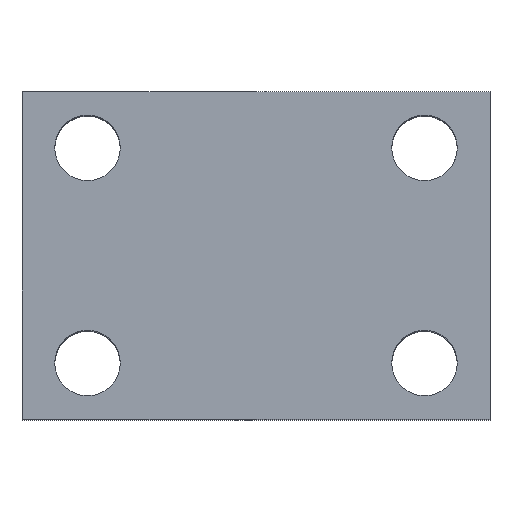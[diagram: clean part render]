
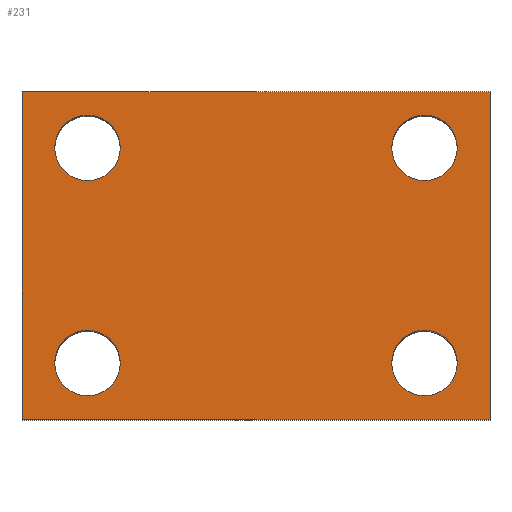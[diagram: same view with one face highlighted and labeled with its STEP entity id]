
A CAD part, top view. The second image highlights one B-rep face of the part: STEP entity #231.
In plain terms, the highlighted planar face has unit normal (0, 0, 1).
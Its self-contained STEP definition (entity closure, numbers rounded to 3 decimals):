
#155 = LINE ( 'NONE', #18748, #11346 ) ;
#218 = FACE_BOUND ( 'NONE', #17142, .T. ) ;
#231 = ADVANCED_FACE ( 'NONE', ( #681, #11409, #3673, #218, #18726 ), #5548, .F. ) ;
#322 = CARTESIAN_POINT ( 'NONE',  ( -21.5, 6., 40. ) ) ;
#520 = LINE ( 'NONE', #12212, #7843 ) ;
#540 = ORIENTED_EDGE ( 'NONE', *, *, #5926, .T. ) ;
#681 = FACE_BOUND ( 'NONE', #12258, .T. ) ;
#687 = CARTESIAN_POINT ( 'NONE',  ( -18., 6., 40. ) ) ;
#814 = CARTESIAN_POINT ( 'NONE',  ( -21.5, 29., 40. ) ) ;
#826 = DIRECTION ( 'NONE',  ( -1., 0., 0. ) ) ;
#895 = DIRECTION ( 'NONE',  ( -1., 0., 0. ) ) ;
#1290 = DIRECTION ( 'NONE',  ( 0., 0., -1. ) ) ;
#1465 = DIRECTION ( 'NONE',  ( 0., 0., -1. ) ) ;
#2000 = CARTESIAN_POINT ( 'NONE',  ( -18., 29., 40. ) ) ;
#2052 = CARTESIAN_POINT ( 'NONE',  ( -14.5, 6., 40. ) ) ;
#2086 = CARTESIAN_POINT ( 'NONE',  ( -25., 0., 40. ) ) ;
#2146 = AXIS2_PLACEMENT_3D ( 'NONE', #687, #10899, #2177 ) ;
#2177 = DIRECTION ( 'NONE',  ( -1., 0., 0. ) ) ;
#2197 = AXIS2_PLACEMENT_3D ( 'NONE', #18383, #9650, #895 ) ;
#2442 = AXIS2_PLACEMENT_3D ( 'NONE', #2000, #12167, #3464 ) ;
#2587 = ORIENTED_EDGE ( 'NONE', *, *, #10548, .T. ) ;
#2834 = VERTEX_POINT ( 'NONE', #814 ) ;
#2879 = ORIENTED_EDGE ( 'NONE', *, *, #18898, .T. ) ;
#2913 = EDGE_LOOP ( 'NONE', ( #18945, #5306 ) ) ;
#3181 = CARTESIAN_POINT ( 'NONE',  ( 14.5, 29., 40. ) ) ;
#3276 = CARTESIAN_POINT ( 'NONE',  ( -25., 35., 40. ) ) ;
#3414 = EDGE_CURVE ( 'NONE', #13871, #14125, #520, .T. ) ;
#3421 = AXIS2_PLACEMENT_3D ( 'NONE', #10208, #1465, #11651 ) ;
#3464 = DIRECTION ( 'NONE',  ( -1., 0., 0. ) ) ;
#3516 = CIRCLE ( 'NONE', #10508, 3.5 ) ;
#3641 = VERTEX_POINT ( 'NONE', #15812 ) ;
#3661 = VERTEX_POINT ( 'NONE', #8605 ) ;
#3673 = FACE_BOUND ( 'NONE', #2913, .T. ) ;
#3757 = ORIENTED_EDGE ( 'NONE', *, *, #7921, .T. ) ;
#3908 = EDGE_CURVE ( 'NONE', #16697, #14125, #18788, .T. ) ;
#4587 = ORIENTED_EDGE ( 'NONE', *, *, #3908, .T. ) ;
#4619 = EDGE_CURVE ( 'NONE', #3641, #17625, #16717, .T. ) ;
#4683 = CARTESIAN_POINT ( 'NONE',  ( 25., 0., 40. ) ) ;
#4776 = EDGE_LOOP ( 'NONE', ( #2879, #12805 ) ) ;
#4881 = VECTOR ( 'NONE', #13464, 1000. ) ;
#4994 = CARTESIAN_POINT ( 'NONE',  ( 14.5, 6., 40. ) ) ;
#5306 = ORIENTED_EDGE ( 'NONE', *, *, #4619, .T. ) ;
#5548 = PLANE ( 'NONE',  #8321 ) ;
#5562 = VERTEX_POINT ( 'NONE', #2052 ) ;
#5926 = EDGE_CURVE ( 'NONE', #2834, #3661, #17830, .T. ) ;
#5933 = VERTEX_POINT ( 'NONE', #18008 ) ;
#6402 = CARTESIAN_POINT ( 'NONE',  ( 18., 6., 40. ) ) ;
#6462 = CARTESIAN_POINT ( 'NONE',  ( 25., 35., 40. ) ) ;
#6593 = AXIS2_PLACEMENT_3D ( 'NONE', #7869, #18076, #9325 ) ;
#7032 = CIRCLE ( 'NONE', #2146, 3.5 ) ;
#7843 = VECTOR ( 'NONE', #16642, 1000. ) ;
#7869 = CARTESIAN_POINT ( 'NONE',  ( 18., 6., 40. ) ) ;
#7885 = DIRECTION ( 'NONE',  ( -1., 0., 0. ) ) ;
#7921 = EDGE_CURVE ( 'NONE', #17127, #5933, #9783, .T. ) ;
#8189 = AXIS2_PLACEMENT_3D ( 'NONE', #18316, #9579, #826 ) ;
#8211 = EDGE_CURVE ( 'NONE', #12274, #13871, #155, .T. ) ;
#8321 = AXIS2_PLACEMENT_3D ( 'NONE', #9906, #18629, #17167 ) ;
#8605 = CARTESIAN_POINT ( 'NONE',  ( -14.5, 29., 40. ) ) ;
#8791 = VERTEX_POINT ( 'NONE', #322 ) ;
#9325 = DIRECTION ( 'NONE',  ( -1., 0., 0. ) ) ;
#9579 = DIRECTION ( 'NONE',  ( 0., 0., -1. ) ) ;
#9650 = DIRECTION ( 'NONE',  ( 0., 0., -1. ) ) ;
#9709 = CIRCLE ( 'NONE', #3421, 3.5 ) ;
#9783 = CIRCLE ( 'NONE', #8189, 3.5 ) ;
#9906 = CARTESIAN_POINT ( 'NONE',  ( -25., 35., 40. ) ) ;
#9956 = DIRECTION ( 'NONE',  ( 1., 0., 0. ) ) ;
#10044 = CARTESIAN_POINT ( 'NONE',  ( 18., 29., 40. ) ) ;
#10208 = CARTESIAN_POINT ( 'NONE',  ( -18., 6., 40. ) ) ;
#10281 = CARTESIAN_POINT ( 'NONE',  ( -25., 0., 40. ) ) ;
#10508 = AXIS2_PLACEMENT_3D ( 'NONE', #10044, #1290, #11486 ) ;
#10548 = EDGE_CURVE ( 'NONE', #3661, #2834, #15427, .T. ) ;
#10899 = DIRECTION ( 'NONE',  ( 0., 0., -1. ) ) ;
#11325 = AXIS2_PLACEMENT_3D ( 'NONE', #6402, #16618, #7885 ) ;
#11346 = VECTOR ( 'NONE', #9956, 1000. ) ;
#11409 = FACE_BOUND ( 'NONE', #4776, .T. ) ;
#11486 = DIRECTION ( 'NONE',  ( -1., 0., 0. ) ) ;
#11626 = EDGE_CURVE ( 'NONE', #5562, #8791, #9709, .T. ) ;
#11651 = DIRECTION ( 'NONE',  ( -1., 0., 0. ) ) ;
#11906 = VECTOR ( 'NONE', #13744, 1000. ) ;
#12154 = CIRCLE ( 'NONE', #6593, 3.5 ) ;
#12167 = DIRECTION ( 'NONE',  ( 0., 0., -1. ) ) ;
#12212 = CARTESIAN_POINT ( 'NONE',  ( 25., 35., 40. ) ) ;
#12258 = EDGE_LOOP ( 'NONE', ( #540, #2587 ) ) ;
#12274 = VERTEX_POINT ( 'NONE', #14371 ) ;
#12805 = ORIENTED_EDGE ( 'NONE', *, *, #11626, .T. ) ;
#12847 = EDGE_CURVE ( 'NONE', #12274, #16697, #13076, .T. ) ;
#12903 = EDGE_CURVE ( 'NONE', #17625, #3641, #12154, .T. ) ;
#13035 = EDGE_CURVE ( 'NONE', #5933, #17127, #3516, .T. ) ;
#13076 = LINE ( 'NONE', #3276, #4881 ) ;
#13464 = DIRECTION ( 'NONE',  ( 0., -1., 0. ) ) ;
#13744 = DIRECTION ( 'NONE',  ( 1., 0., 0. ) ) ;
#13871 = VERTEX_POINT ( 'NONE', #6462 ) ;
#13912 = ORIENTED_EDGE ( 'NONE', *, *, #13035, .T. ) ;
#14125 = VERTEX_POINT ( 'NONE', #4683 ) ;
#14371 = CARTESIAN_POINT ( 'NONE',  ( -25., 35., 40. ) ) ;
#15083 = EDGE_LOOP ( 'NONE', ( #4587, #15227, #15771, #18925 ) ) ;
#15227 = ORIENTED_EDGE ( 'NONE', *, *, #3414, .F. ) ;
#15427 = CIRCLE ( 'NONE', #2197, 3.5 ) ;
#15771 = ORIENTED_EDGE ( 'NONE', *, *, #8211, .F. ) ;
#15812 = CARTESIAN_POINT ( 'NONE',  ( 21.5, 6., 40. ) ) ;
#16618 = DIRECTION ( 'NONE',  ( 0., 0., -1. ) ) ;
#16642 = DIRECTION ( 'NONE',  ( 0., -1., 0. ) ) ;
#16697 = VERTEX_POINT ( 'NONE', #10281 ) ;
#16717 = CIRCLE ( 'NONE', #11325, 3.5 ) ;
#17127 = VERTEX_POINT ( 'NONE', #3181 ) ;
#17142 = EDGE_LOOP ( 'NONE', ( #3757, #13912 ) ) ;
#17167 = DIRECTION ( 'NONE',  ( -1., 0., 0. ) ) ;
#17625 = VERTEX_POINT ( 'NONE', #4994 ) ;
#17830 = CIRCLE ( 'NONE', #2442, 3.5 ) ;
#18008 = CARTESIAN_POINT ( 'NONE',  ( 21.5, 29., 40. ) ) ;
#18076 = DIRECTION ( 'NONE',  ( 0., 0., -1. ) ) ;
#18316 = CARTESIAN_POINT ( 'NONE',  ( 18., 29., 40. ) ) ;
#18383 = CARTESIAN_POINT ( 'NONE',  ( -18., 29., 40. ) ) ;
#18629 = DIRECTION ( 'NONE',  ( 0., 0., -1. ) ) ;
#18726 = FACE_OUTER_BOUND ( 'NONE', #15083, .T. ) ;
#18748 = CARTESIAN_POINT ( 'NONE',  ( -25., 35., 40. ) ) ;
#18788 = LINE ( 'NONE', #2086, #11906 ) ;
#18898 = EDGE_CURVE ( 'NONE', #8791, #5562, #7032, .T. ) ;
#18925 = ORIENTED_EDGE ( 'NONE', *, *, #12847, .T. ) ;
#18945 = ORIENTED_EDGE ( 'NONE', *, *, #12903, .T. ) ;
